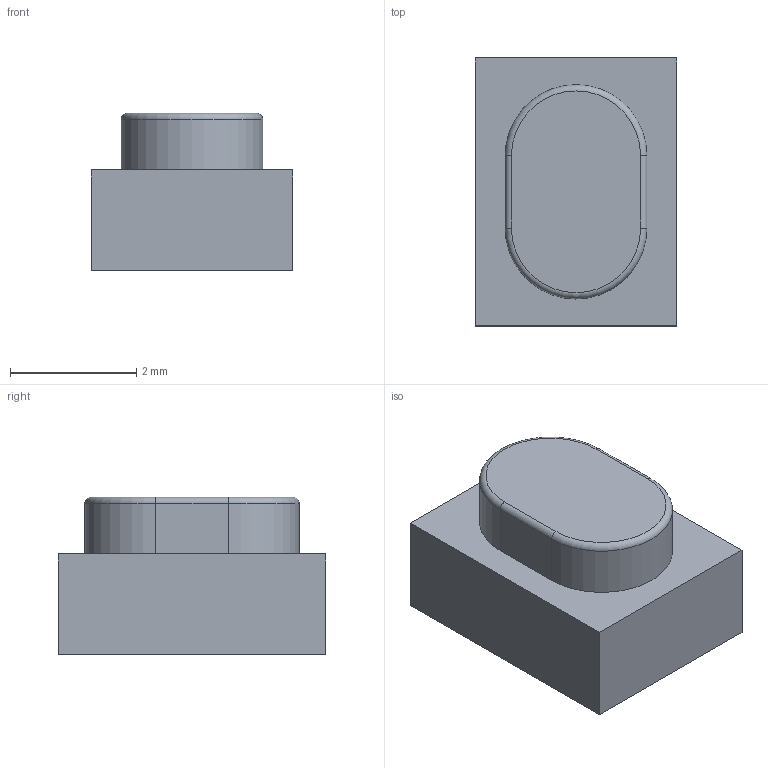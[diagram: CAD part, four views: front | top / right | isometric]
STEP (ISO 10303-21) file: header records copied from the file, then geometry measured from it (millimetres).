
FILE_DESCRIPTION(/* description */ ('STEP AP242 Edition 2','CAx-IF Rec.Pracs.---Representation and Presentation of Product Manufacturing Information (PMI)---4.0---2014-10-13','CAx-IF Rec.Pracs.---3D Tessellated Geometry---0.4---2014-09-14','2;1','CAx-IF Rec.Pracs.---User Defined Attributes---1.5---2016-08-15'),/* implementation_level */ '2;1');
FILE_NAME(/* name */ 'HIRO_Assembly - SW1, Tact Switch, Raspberry Pi Pico-R3',/* time_stamp */ '2026-11-04T05:23:30Z',/* author */ (''),/* organization */ (''),/* preprocessor_version */ 'ST-DEVELOPER v20',/* originating_system */ 'ONSHAPE BY PTC INC, 1.223',/* authorisation */ ' ');
FILE_SCHEMA (('AP242_MANAGED_MODEL_BASED_3D_ENGINEERING_MIM_LF { 1 0 10303 442 3 1 4 }'));
Length unit declared in the file: metre
Products named in the file (1): SW1, Tact Switch, Raspberry Pi Pico-R3
Bounding box: 3.2 x 4.25 x 2.5 mm (x, y, z)
Volume: 27.6 mm3; surface area: 59.1 mm2
Topology: 1 solids, 1 shells, 15 faces, 32 edges, 20 vertices
Faces by surface type: plane 9, cylinder 4, torus 2
Entity records: 533 total; most frequent: DIRECTION 74, CARTESIAN_POINT 68, ORIENTED_EDGE 64, EDGE_CURVE 32, AXIS2_PLACEMENT_3D 26, LINE 22, VECTOR 22, VERTEX_POINT 20
